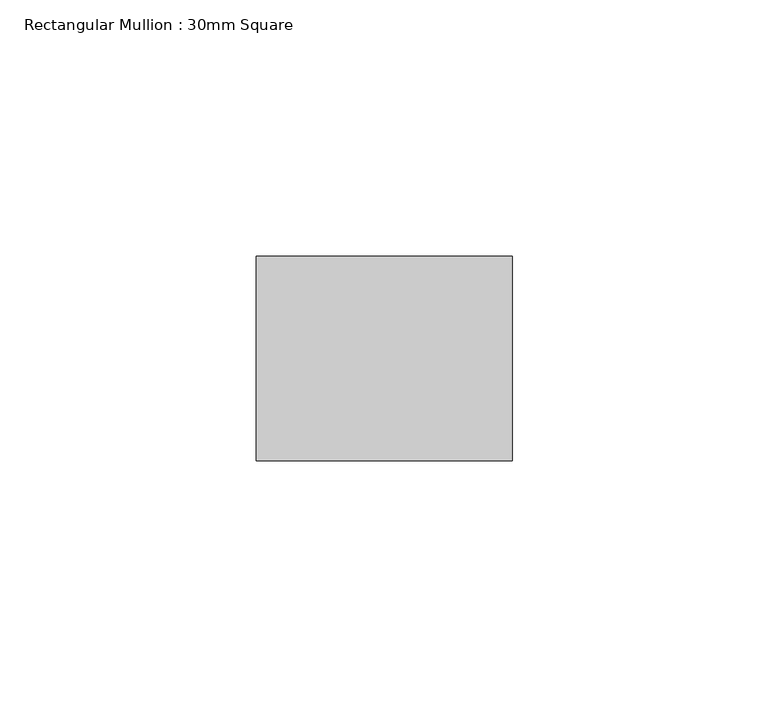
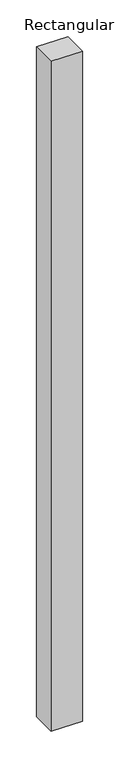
"""IFC4 building model written with IfcOpenShell, lengths in millimetres: member geometry, Rectangular Mullion : 30mm Square."""

from ifc_helpers import new_model, si_unit, frame, origin, place, context, project, spatial, polyline, outline, extrude, source, transform, mapped, element, save


def rectangular_mullion_30mm_square_43e794fb(model_context):
    return source(origin(), model_context, "Body", "SweptSolid", [
        extrude(outline(polyline([(25.0, 20.0), (25.0, -20.0), (-25.0, -20.0), (-25.0, 20.0), (25.0, 20.0)])), frame((0.0, 0.0, -1120.0), z_axis=(0.0, 0.0, 1.0), x_axis=(1.0, 0.0, 0.0)), (0.0, 0.0, 1.0), 1120.0),
    ])


if __name__ == "__main__":
    model = new_model("IFC4")
    model_context = context("Model", 3, world=origin())
    ifc_project = project(units=[si_unit("LENGTHUNIT", "METRE", prefix="MILLI")], contexts=[model_context])
    site = spatial("IfcSite", under=ifc_project)
    building = spatial("IfcBuilding", under=site)
    placement = place(None, origin())
    rectangular_mullion_30mm_square_shape = rectangular_mullion_30mm_square_43e794fb(model_context)
    element("IfcMember", 1, ObjectType="Rectangular Mullion : 30mm Square", at=placement, inside=building, context=model_context, shape_type="MappedRepresentation", body=[
        mapped(rectangular_mullion_30mm_square_shape, transform((0.0, 0.0, 0.0), x_axis=(1.0, 0.0, 0.0), y_axis=(0.0, 1.0, 0.0), z_axis=(0.0, 0.0, 1.0))),
    ])
    save(model, "model.ifc")
